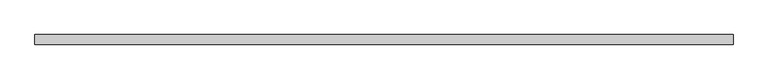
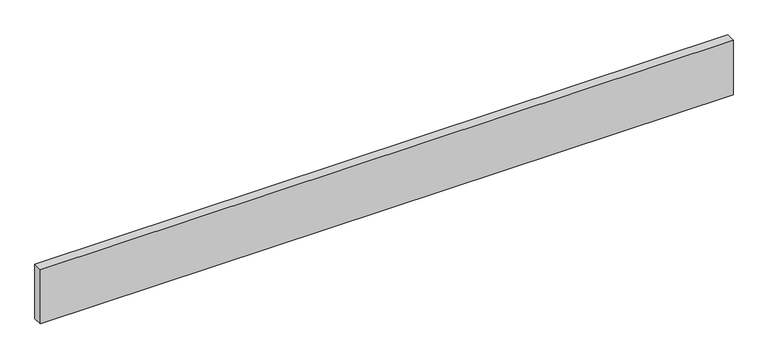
"""IFC4 building model written with IfcOpenShell, lengths in millimetres: plate geometry, Lod 200 Regolare 800 Horizontal : Azuro."""

from ifc_helpers import new_model, si_unit, origin, origin_with_axes, place, context, project, spatial, polyline, outline, extrude, source, transform, mapped, element, save


def plate_431ae45b(model_context):
    return source(origin(), model_context, "Body", "SweptSolid", [
        extrude(outline(polyline([(1450.1966549, -40.0), (-1450.1966549, -40.0), (-1450.1966549, 0.0), (1450.1966549, 0.0), (1450.1966549, -40.0)])), origin_with_axes(), (0.0, 0.0, 1.0), 240.0),
    ])


if __name__ == "__main__":
    model = new_model("IFC4")
    model_context = context("Model", 3, world=origin())
    ifc_project = project(units=[si_unit("LENGTHUNIT", "METRE", prefix="MILLI")], contexts=[model_context])
    site = spatial("IfcSite", under=ifc_project)
    building = spatial("IfcBuilding", under=site)
    placement = place(None, origin())
    plate_shape = plate_431ae45b(model_context)
    element("IfcPlate", 1, ObjectType="Lod 200 Regolare 800 Horizontal : Azuro", at=placement, inside=building, context=model_context, shape_type="MappedRepresentation", body=[
        mapped(plate_shape, transform((0.0, 0.0, 0.0), x_axis=(1.0, 0.0, 0.0), y_axis=(0.0, 1.0, 0.0), z_axis=(0.0, 0.0, 1.0))),
    ])
    save(model, "model.ifc")
